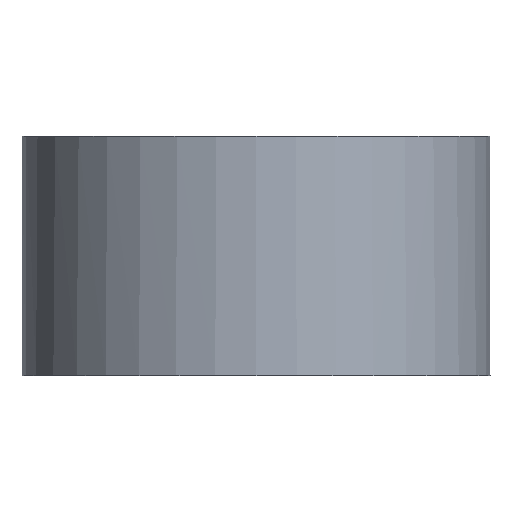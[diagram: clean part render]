
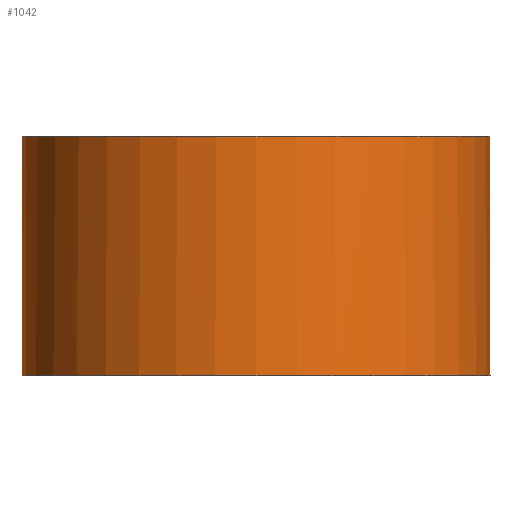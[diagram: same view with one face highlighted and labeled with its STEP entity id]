
A CAD part, left-side view. The second image highlights one B-rep face of the part: STEP entity #1042.
In plain terms, the highlighted cylindrical face has radius 1.075 mm (diameter 2.15 mm), a full revolution.
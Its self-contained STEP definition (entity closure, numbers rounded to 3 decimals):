
#24 = VERTEX_POINT('',#25);
#25 = CARTESIAN_POINT('',(0.995,-0.407,1.1));
#32 = PLANE('',#33);
#33 = AXIS2_PLACEMENT_3D('',#34,#35,#36);
#34 = CARTESIAN_POINT('',(0.,0.,1.1));
#35 = DIRECTION('',(0.,0.,1.));
#36 = DIRECTION('',(1.,0.,-0.));
#44 = PLANE('',#45);
#45 = AXIS2_PLACEMENT_3D('',#46,#47,#48);
#46 = CARTESIAN_POINT('',(0.995,-0.525,0.05));
#47 = DIRECTION('',(1.,0.,0.));
#48 = DIRECTION('',(0.,0.,1.));
#265 = VERTEX_POINT('',#266);
#266 = CARTESIAN_POINT('',(0.995,0.407,1.1));
#280 = PLANE('',#281);
#281 = AXIS2_PLACEMENT_3D('',#282,#283,#284);
#282 = CARTESIAN_POINT('',(0.995,-0.525,0.05));
#283 = DIRECTION('',(1.,0.,0.));
#284 = DIRECTION('',(0.,0.,1.));
#292 = EDGE_CURVE('',#265,#24,#293,.T.);
#293 = SURFACE_CURVE('',#294,(#299,#306),.PCURVE_S1.);
#294 = CIRCLE('',#295,1.075);
#295 = AXIS2_PLACEMENT_3D('',#296,#297,#298);
#296 = CARTESIAN_POINT('',(0.,0.,1.1));
#297 = DIRECTION('',(0.,0.,1.));
#298 = DIRECTION('',(1.,0.,0.));
#299 = PCURVE('',#32,#300);
#300 = DEFINITIONAL_REPRESENTATION('',(#301),#305);
#301 = CIRCLE('',#302,1.075);
#302 = AXIS2_PLACEMENT_2D('',#303,#304);
#303 = CARTESIAN_POINT('',(0.,0.));
#304 = DIRECTION('',(1.,0.));
#305 = ( GEOMETRIC_REPRESENTATION_CONTEXT(2) 
PARAMETRIC_REPRESENTATION_CONTEXT() REPRESENTATION_CONTEXT('2D SPACE',''
  ) );
#306 = PCURVE('',#307,#312);
#307 = CYLINDRICAL_SURFACE('',#308,1.075);
#308 = AXIS2_PLACEMENT_3D('',#309,#310,#311);
#309 = CARTESIAN_POINT('',(0.,0.,0.));
#310 = DIRECTION('',(-0.,-0.,-1.));
#311 = DIRECTION('',(1.,0.,0.));
#312 = DEFINITIONAL_REPRESENTATION('',(#313),#317);
#313 = LINE('',#314,#315);
#314 = CARTESIAN_POINT('',(-0.,-1.1));
#315 = VECTOR('',#316,1.);
#316 = DIRECTION('',(-1.,0.));
#317 = ( GEOMETRIC_REPRESENTATION_CONTEXT(2) 
PARAMETRIC_REPRESENTATION_CONTEXT() REPRESENTATION_CONTEXT('2D SPACE',''
  ) );
#489 = VERTEX_POINT('',#490);
#490 = CARTESIAN_POINT('',(0.995,-0.407,0.05));
#504 = PLANE('',#505);
#505 = AXIS2_PLACEMENT_3D('',#506,#507,#508);
#506 = CARTESIAN_POINT('',(0.995,-0.525,0.05));
#507 = DIRECTION('',(0.,0.,1.));
#508 = DIRECTION('',(1.,0.,0.));
#516 = EDGE_CURVE('',#24,#489,#517,.T.);
#517 = SURFACE_CURVE('',#518,(#522,#528),.PCURVE_S1.);
#518 = LINE('',#519,#520);
#519 = CARTESIAN_POINT('',(0.995,-0.407,0.));
#520 = VECTOR('',#521,1.);
#521 = DIRECTION('',(-0.,-0.,-1.));
#522 = PCURVE('',#44,#523);
#523 = DEFINITIONAL_REPRESENTATION('',(#524),#527);
#524 = B_SPLINE_CURVE_WITH_KNOTS('',1,(#525,#526),.UNSPECIFIED.,.F.,.F.,
  (2,2),(-1.1,0.),.PIECEWISE_BEZIER_KNOTS.);
#525 = CARTESIAN_POINT('',(1.05,-0.118));
#526 = CARTESIAN_POINT('',(-0.05,-0.118));
#527 = ( GEOMETRIC_REPRESENTATION_CONTEXT(2) 
PARAMETRIC_REPRESENTATION_CONTEXT() REPRESENTATION_CONTEXT('2D SPACE',''
  ) );
#528 = PCURVE('',#307,#529);
#529 = DEFINITIONAL_REPRESENTATION('',(#530),#533);
#530 = B_SPLINE_CURVE_WITH_KNOTS('',1,(#531,#532),.UNSPECIFIED.,.F.,.F.,
  (2,2),(-1.1,0.),.PIECEWISE_BEZIER_KNOTS.);
#531 = CARTESIAN_POINT('',(-5.895,-1.1));
#532 = CARTESIAN_POINT('',(-5.895,0.));
#533 = ( GEOMETRIC_REPRESENTATION_CONTEXT(2) 
PARAMETRIC_REPRESENTATION_CONTEXT() REPRESENTATION_CONTEXT('2D SPACE',''
  ) );
#1000 = EDGE_CURVE('',#265,#1001,#1003,.T.);
#1001 = VERTEX_POINT('',#1002);
#1002 = CARTESIAN_POINT('',(0.995,0.407,0.05));
#1003 = SURFACE_CURVE('',#1004,(#1008,#1014),.PCURVE_S1.);
#1004 = LINE('',#1005,#1006);
#1005 = CARTESIAN_POINT('',(0.995,0.407,0.));
#1006 = VECTOR('',#1007,1.);
#1007 = DIRECTION('',(-0.,-0.,-1.));
#1008 = PCURVE('',#280,#1009);
#1009 = DEFINITIONAL_REPRESENTATION('',(#1010),#1013);
#1010 = B_SPLINE_CURVE_WITH_KNOTS('',1,(#1011,#1012),.UNSPECIFIED.,.F.,
  .F.,(2,2),(-1.1,0.),.PIECEWISE_BEZIER_KNOTS.);
#1011 = CARTESIAN_POINT('',(1.05,-0.932));
#1012 = CARTESIAN_POINT('',(-0.05,-0.932));
#1013 = ( GEOMETRIC_REPRESENTATION_CONTEXT(2) 
PARAMETRIC_REPRESENTATION_CONTEXT() REPRESENTATION_CONTEXT('2D SPACE',''
  ) );
#1014 = PCURVE('',#307,#1015);
#1015 = DEFINITIONAL_REPRESENTATION('',(#1016),#1019);
#1016 = B_SPLINE_CURVE_WITH_KNOTS('',1,(#1017,#1018),.UNSPECIFIED.,.F.,
  .F.,(2,2),(-1.1,0.),.PIECEWISE_BEZIER_KNOTS.);
#1017 = CARTESIAN_POINT('',(-0.388,-1.1));
#1018 = CARTESIAN_POINT('',(-0.388,0.));
#1019 = ( GEOMETRIC_REPRESENTATION_CONTEXT(2) 
PARAMETRIC_REPRESENTATION_CONTEXT() REPRESENTATION_CONTEXT('2D SPACE',''
  ) );
#1042 = ADVANCED_FACE('',(#1043),#307,.T.);
#1043 = FACE_BOUND('',#1044,.F.);
#1044 = EDGE_LOOP('',(#1045,#1073,#1096,#1123,#1124,#1150,#1151,#1152));
#1045 = ORIENTED_EDGE('',*,*,#1046,.F.);
#1046 = EDGE_CURVE('',#1047,#489,#1049,.T.);
#1047 = VERTEX_POINT('',#1048);
#1048 = CARTESIAN_POINT('',(1.075,0.,0.05));
#1049 = SURFACE_CURVE('',#1050,(#1055,#1062),.PCURVE_S1.);
#1050 = CIRCLE('',#1051,1.075);
#1051 = AXIS2_PLACEMENT_3D('',#1052,#1053,#1054);
#1052 = CARTESIAN_POINT('',(0.,0.,0.05));
#1053 = DIRECTION('',(0.,0.,-1.));
#1054 = DIRECTION('',(1.,0.,0.));
#1055 = PCURVE('',#307,#1056);
#1056 = DEFINITIONAL_REPRESENTATION('',(#1057),#1061);
#1057 = LINE('',#1058,#1059);
#1058 = CARTESIAN_POINT('',(-6.283,-0.05));
#1059 = VECTOR('',#1060,1.);
#1060 = DIRECTION('',(1.,-0.));
#1061 = ( GEOMETRIC_REPRESENTATION_CONTEXT(2) 
PARAMETRIC_REPRESENTATION_CONTEXT() REPRESENTATION_CONTEXT('2D SPACE',''
  ) );
#1062 = PCURVE('',#504,#1063);
#1063 = DEFINITIONAL_REPRESENTATION('',(#1064),#1072);
#1064 = ( BOUNDED_CURVE() B_SPLINE_CURVE(2,(#1065,#1066,#1067,#1068,
#1069,#1070,#1071),.UNSPECIFIED.,.T.,.F.) B_SPLINE_CURVE_WITH_KNOTS((1,2
    ,2,2,2,1),(-2.094,0.,2.094,4.189,
6.283,8.378),.UNSPECIFIED.) CURVE() 
GEOMETRIC_REPRESENTATION_ITEM() RATIONAL_B_SPLINE_CURVE((1.,0.5,1.,0.5,
1.,0.5,1.)) REPRESENTATION_ITEM('') );
#1065 = CARTESIAN_POINT('',(0.08,0.525));
#1066 = CARTESIAN_POINT('',(0.08,-1.337));
#1067 = CARTESIAN_POINT('',(-1.533,-0.406));
#1068 = CARTESIAN_POINT('',(-3.145,0.525));
#1069 = CARTESIAN_POINT('',(-1.533,1.456));
#1070 = CARTESIAN_POINT('',(0.08,2.387));
#1071 = CARTESIAN_POINT('',(0.08,0.525));
#1072 = ( GEOMETRIC_REPRESENTATION_CONTEXT(2) 
PARAMETRIC_REPRESENTATION_CONTEXT() REPRESENTATION_CONTEXT('2D SPACE',''
  ) );
#1073 = ORIENTED_EDGE('',*,*,#1074,.F.);
#1074 = EDGE_CURVE('',#1075,#1047,#1077,.T.);
#1075 = VERTEX_POINT('',#1076);
#1076 = CARTESIAN_POINT('',(1.075,0.,0.));
#1077 = SEAM_CURVE('',#1078,(#1082,#1089),.PCURVE_S1.);
#1078 = LINE('',#1079,#1080);
#1079 = CARTESIAN_POINT('',(1.075,0.,0.));
#1080 = VECTOR('',#1081,1.);
#1081 = DIRECTION('',(0.,0.,1.));
#1082 = PCURVE('',#307,#1083);
#1083 = DEFINITIONAL_REPRESENTATION('',(#1084),#1088);
#1084 = LINE('',#1085,#1086);
#1085 = CARTESIAN_POINT('',(-0.,0.));
#1086 = VECTOR('',#1087,1.);
#1087 = DIRECTION('',(-0.,-1.));
#1088 = ( GEOMETRIC_REPRESENTATION_CONTEXT(2) 
PARAMETRIC_REPRESENTATION_CONTEXT() REPRESENTATION_CONTEXT('2D SPACE',''
  ) );
#1089 = PCURVE('',#307,#1090);
#1090 = DEFINITIONAL_REPRESENTATION('',(#1091),#1095);
#1091 = LINE('',#1092,#1093);
#1092 = CARTESIAN_POINT('',(-6.283,0.));
#1093 = VECTOR('',#1094,1.);
#1094 = DIRECTION('',(-0.,-1.));
#1095 = ( GEOMETRIC_REPRESENTATION_CONTEXT(2) 
PARAMETRIC_REPRESENTATION_CONTEXT() REPRESENTATION_CONTEXT('2D SPACE',''
  ) );
#1096 = ORIENTED_EDGE('',*,*,#1097,.F.);
#1097 = EDGE_CURVE('',#1075,#1075,#1098,.T.);
#1098 = SURFACE_CURVE('',#1099,(#1104,#1111),.PCURVE_S1.);
#1099 = CIRCLE('',#1100,1.075);
#1100 = AXIS2_PLACEMENT_3D('',#1101,#1102,#1103);
#1101 = CARTESIAN_POINT('',(0.,0.,0.));
#1102 = DIRECTION('',(0.,0.,1.));
#1103 = DIRECTION('',(1.,0.,0.));
#1104 = PCURVE('',#307,#1105);
#1105 = DEFINITIONAL_REPRESENTATION('',(#1106),#1110);
#1106 = LINE('',#1107,#1108);
#1107 = CARTESIAN_POINT('',(-0.,0.));
#1108 = VECTOR('',#1109,1.);
#1109 = DIRECTION('',(-1.,0.));
#1110 = ( GEOMETRIC_REPRESENTATION_CONTEXT(2) 
PARAMETRIC_REPRESENTATION_CONTEXT() REPRESENTATION_CONTEXT('2D SPACE',''
  ) );
#1111 = PCURVE('',#1112,#1117);
#1112 = PLANE('',#1113);
#1113 = AXIS2_PLACEMENT_3D('',#1114,#1115,#1116);
#1114 = CARTESIAN_POINT('',(0.,0.,0.));
#1115 = DIRECTION('',(0.,0.,1.));
#1116 = DIRECTION('',(1.,0.,-0.));
#1117 = DEFINITIONAL_REPRESENTATION('',(#1118),#1122);
#1118 = CIRCLE('',#1119,1.075);
#1119 = AXIS2_PLACEMENT_2D('',#1120,#1121);
#1120 = CARTESIAN_POINT('',(0.,0.));
#1121 = DIRECTION('',(1.,0.));
#1122 = ( GEOMETRIC_REPRESENTATION_CONTEXT(2) 
PARAMETRIC_REPRESENTATION_CONTEXT() REPRESENTATION_CONTEXT('2D SPACE',''
  ) );
#1123 = ORIENTED_EDGE('',*,*,#1074,.T.);
#1124 = ORIENTED_EDGE('',*,*,#1125,.F.);
#1125 = EDGE_CURVE('',#1001,#1047,#1126,.T.);
#1126 = SURFACE_CURVE('',#1127,(#1132,#1139),.PCURVE_S1.);
#1127 = CIRCLE('',#1128,1.075);
#1128 = AXIS2_PLACEMENT_3D('',#1129,#1130,#1131);
#1129 = CARTESIAN_POINT('',(0.,0.,0.05));
#1130 = DIRECTION('',(0.,0.,-1.));
#1131 = DIRECTION('',(1.,0.,0.));
#1132 = PCURVE('',#307,#1133);
#1133 = DEFINITIONAL_REPRESENTATION('',(#1134),#1138);
#1134 = LINE('',#1135,#1136);
#1135 = CARTESIAN_POINT('',(-6.283,-0.05));
#1136 = VECTOR('',#1137,1.);
#1137 = DIRECTION('',(1.,-0.));
#1138 = ( GEOMETRIC_REPRESENTATION_CONTEXT(2) 
PARAMETRIC_REPRESENTATION_CONTEXT() REPRESENTATION_CONTEXT('2D SPACE',''
  ) );
#1139 = PCURVE('',#504,#1140);
#1140 = DEFINITIONAL_REPRESENTATION('',(#1141),#1149);
#1141 = ( BOUNDED_CURVE() B_SPLINE_CURVE(2,(#1142,#1143,#1144,#1145,
#1146,#1147,#1148),.UNSPECIFIED.,.T.,.F.) B_SPLINE_CURVE_WITH_KNOTS((1,2
    ,2,2,2,1),(-2.094,0.,2.094,4.189,
6.283,8.378),.UNSPECIFIED.) CURVE() 
GEOMETRIC_REPRESENTATION_ITEM() RATIONAL_B_SPLINE_CURVE((1.,0.5,1.,0.5,
1.,0.5,1.)) REPRESENTATION_ITEM('') );
#1142 = CARTESIAN_POINT('',(0.08,0.525));
#1143 = CARTESIAN_POINT('',(0.08,-1.337));
#1144 = CARTESIAN_POINT('',(-1.533,-0.406));
#1145 = CARTESIAN_POINT('',(-3.145,0.525));
#1146 = CARTESIAN_POINT('',(-1.533,1.456));
#1147 = CARTESIAN_POINT('',(0.08,2.387));
#1148 = CARTESIAN_POINT('',(0.08,0.525));
#1149 = ( GEOMETRIC_REPRESENTATION_CONTEXT(2) 
PARAMETRIC_REPRESENTATION_CONTEXT() REPRESENTATION_CONTEXT('2D SPACE',''
  ) );
#1150 = ORIENTED_EDGE('',*,*,#1000,.F.);
#1151 = ORIENTED_EDGE('',*,*,#292,.T.);
#1152 = ORIENTED_EDGE('',*,*,#516,.T.);
